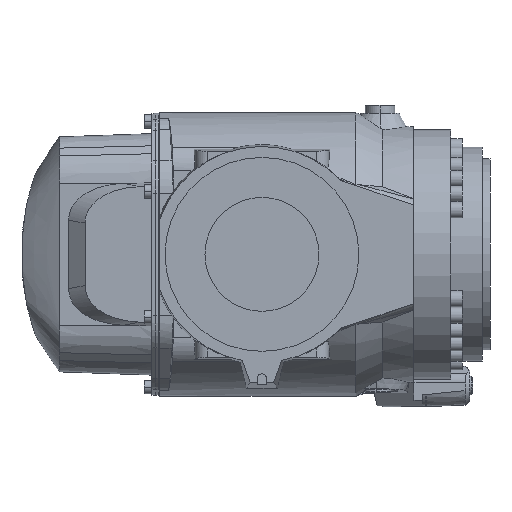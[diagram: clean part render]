
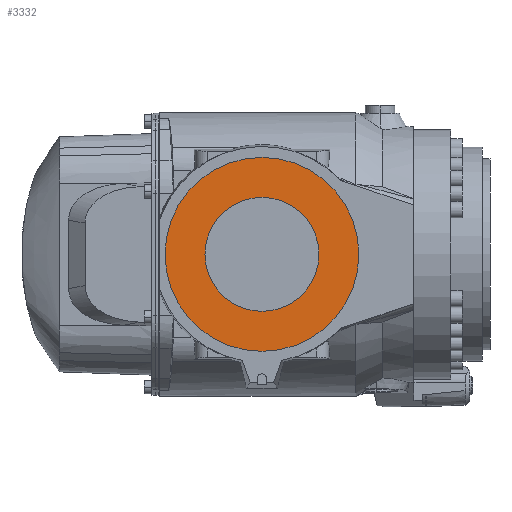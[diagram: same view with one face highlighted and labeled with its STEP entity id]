
A CAD part, front view. The second image highlights one B-rep face of the part: STEP entity #3332.
In plain terms, the highlighted planar face has unit normal (0, -1, 0).
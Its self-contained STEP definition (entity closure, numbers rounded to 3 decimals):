
#326 = EDGE_LOOP ( 'NONE', ( #6634, #2832 ) ) ;
#1042 = EDGE_CURVE ( 'NONE', #10839, #17881, #16949, .T. ) ;
#1723 = CARTESIAN_POINT ( 'NONE',  ( 1425.762, -91., 1990. ) ) ;
#1817 = CARTESIAN_POINT ( 'NONE',  ( 1462.5, -91., 1990. ) ) ;
#2575 = CIRCLE ( 'NONE', #4935, 62.5 ) ;
#2832 = ORIENTED_EDGE ( 'NONE', *, *, #16825, .F. ) ;
#3332 = ADVANCED_FACE ( 'NONE', ( #17372, #4673 ), #10251, .T. ) ;
#3527 = AXIS2_PLACEMENT_3D ( 'NONE', #1817, #15810, #4591 ) ;
#4079 = CARTESIAN_POINT ( 'NONE',  ( 1462.5, -91., 1990. ) ) ;
#4220 = CARTESIAN_POINT ( 'NONE',  ( 1462.5, -91., 1990. ) ) ;
#4445 = CARTESIAN_POINT ( 'NONE',  ( 1499.238, -91., 1990. ) ) ;
#4591 = DIRECTION ( 'NONE',  ( 1., 0., 0. ) ) ;
#4673 = FACE_BOUND ( 'NONE', #326, .T. ) ;
#4688 = CARTESIAN_POINT ( 'NONE',  ( 1400., -91., 1990. ) ) ;
#4935 = AXIS2_PLACEMENT_3D ( 'NONE', #12482, #16877, #17993 ) ;
#5480 = DIRECTION ( 'NONE',  ( 1., 0., 0. ) ) ;
#5891 = VERTEX_POINT ( 'NONE', #1723 ) ;
#6542 = DIRECTION ( 'NONE',  ( 1., 0., 0. ) ) ;
#6562 = AXIS2_PLACEMENT_3D ( 'NONE', #4220, #10244, #7402 ) ;
#6634 = ORIENTED_EDGE ( 'NONE', *, *, #8789, .F. ) ;
#6846 = CARTESIAN_POINT ( 'NONE',  ( 1462.5, -91., 1990. ) ) ;
#7402 = DIRECTION ( 'NONE',  ( 1., 0., 0. ) ) ;
#8789 = EDGE_CURVE ( 'NONE', #14097, #5891, #15298, .T. ) ;
#10244 = DIRECTION ( 'NONE',  ( 0., -1., 0. ) ) ;
#10251 = PLANE ( 'NONE',  #3527 ) ;
#10839 = VERTEX_POINT ( 'NONE', #4688 ) ;
#11573 = EDGE_LOOP ( 'NONE', ( #14432, #17075 ) ) ;
#12192 = CARTESIAN_POINT ( 'NONE',  ( 1525., -91., 1990. ) ) ;
#12482 = CARTESIAN_POINT ( 'NONE',  ( 1462.5, -91., 1990. ) ) ;
#12489 = CIRCLE ( 'NONE', #13079, 36.738 ) ;
#12806 = AXIS2_PLACEMENT_3D ( 'NONE', #4079, #15027, #6542 ) ;
#13079 = AXIS2_PLACEMENT_3D ( 'NONE', #6846, #18020, #5480 ) ;
#14097 = VERTEX_POINT ( 'NONE', #4445 ) ;
#14432 = ORIENTED_EDGE ( 'NONE', *, *, #1042, .T. ) ;
#15027 = DIRECTION ( 'NONE',  ( 0., -1., 0. ) ) ;
#15298 = CIRCLE ( 'NONE', #6562, 36.738 ) ;
#15810 = DIRECTION ( 'NONE',  ( 0., -1., 0. ) ) ;
#16825 = EDGE_CURVE ( 'NONE', #5891, #14097, #12489, .T. ) ;
#16877 = DIRECTION ( 'NONE',  ( 0., -1., 0. ) ) ;
#16949 = CIRCLE ( 'NONE', #12806, 62.5 ) ;
#17075 = ORIENTED_EDGE ( 'NONE', *, *, #17641, .T. ) ;
#17372 = FACE_OUTER_BOUND ( 'NONE', #11573, .T. ) ;
#17641 = EDGE_CURVE ( 'NONE', #17881, #10839, #2575, .T. ) ;
#17881 = VERTEX_POINT ( 'NONE', #12192 ) ;
#17993 = DIRECTION ( 'NONE',  ( 1., 0., 0. ) ) ;
#18020 = DIRECTION ( 'NONE',  ( 0., -1., 0. ) ) ;
